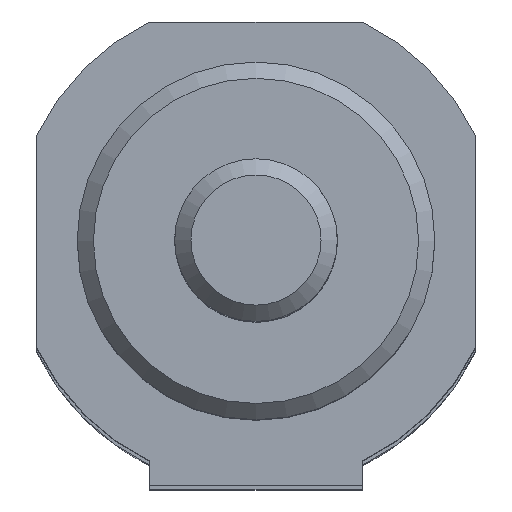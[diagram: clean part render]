
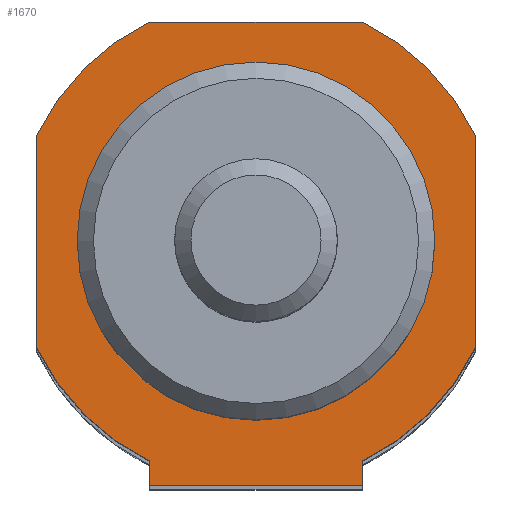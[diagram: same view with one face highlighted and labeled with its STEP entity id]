
A CAD part, top view. The second image highlights one B-rep face of the part: STEP entity #1670.
In plain terms, the highlighted planar face has unit normal (0, 0, 1).
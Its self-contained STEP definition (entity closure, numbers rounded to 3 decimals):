
#101=CARTESIAN_POINT('',(6.538,-15.,186.0));
#102=VERTEX_POINT('',#101);
#103=CARTESIAN_POINT('',(-6.538,-15.,186.0));
#104=VERTEX_POINT('',#103);
#105=CARTESIAN_POINT('',(6.538,-15.,186.0));
#106=DIRECTION('',(-1.0,0.0,0.0));
#107=VECTOR('',#106,13.077);
#108=LINE('',#105,#107);
#109=EDGE_CURVE('',#102,#104,#108,.T.);
#257=CARTESIAN_POINT('',(-6.538,-13.5,186.0));
#258=VERTEX_POINT('',#257);
#272=CARTESIAN_POINT('',(-6.538,-13.5,186.0));
#273=DIRECTION('',(0.0,-1.0,0.0));
#274=VECTOR('',#273,1.5);
#275=LINE('',#272,#274);
#276=EDGE_CURVE('',#258,#104,#275,.T.);
#288=CARTESIAN_POINT('',(6.538,-13.5,186.0));
#289=VERTEX_POINT('',#288);
#296=CARTESIAN_POINT('',(6.538,-13.5,186.0));
#297=DIRECTION('',(0.0,-1.0,0.0));
#298=VECTOR('',#297,1.5);
#299=LINE('',#296,#298);
#300=EDGE_CURVE('',#289,#102,#299,.T.);
#1398=CARTESIAN_POINT('',(11.0,0.,186.0));
#1399=VERTEX_POINT('',#1398);
#1400=CARTESIAN_POINT('',(0.0,0.0,186.0));
#1401=DIRECTION('',(0.0,0.0,-1.0));
#1402=DIRECTION('',(-1.0,0.0,0.0));
#1403=AXIS2_PLACEMENT_3D('',#1400,#1401,#1402);
#1404=CIRCLE('',#1403,11.0);
#1405=EDGE_CURVE('',#1399,#1399,#1404,.T.);
#1490=CARTESIAN_POINT('',(-6.538,13.5,186.0));
#1491=VERTEX_POINT('',#1490);
#1492=CARTESIAN_POINT('',(6.538,13.5,186.0));
#1493=VERTEX_POINT('',#1492);
#1494=CARTESIAN_POINT('',(-6.538,13.5,186.0));
#1495=DIRECTION('',(1.0,0.0,0.0));
#1496=VECTOR('',#1495,13.077);
#1497=LINE('',#1494,#1496);
#1498=EDGE_CURVE('',#1491,#1493,#1497,.T.);
#1521=CARTESIAN_POINT('',(13.5,6.538,186.0));
#1522=VERTEX_POINT('',#1521);
#1523=CARTESIAN_POINT('',(0.,0.,186.0));
#1524=DIRECTION('',(0.,0.,-1.0));
#1525=DIRECTION('',(0.9,0.436,0.));
#1526=AXIS2_PLACEMENT_3D('',#1523,#1524,#1525);
#1527=CIRCLE('',#1526,15.);
#1528=EDGE_CURVE('',#1493,#1522,#1527,.T.);
#1546=CARTESIAN_POINT('',(13.5,-6.538,186.0));
#1547=VERTEX_POINT('',#1546);
#1548=CARTESIAN_POINT('',(13.5,6.538,186.0));
#1549=DIRECTION('',(0.0,-1.0,0.0));
#1550=VECTOR('',#1549,13.077);
#1551=LINE('',#1548,#1550);
#1552=EDGE_CURVE('',#1522,#1547,#1551,.T.);
#1570=CARTESIAN_POINT('',(0.,0.,186.0));
#1571=DIRECTION('',(0.,0.,-1.0));
#1572=DIRECTION('',(0.436,-0.9,0.));
#1573=AXIS2_PLACEMENT_3D('',#1570,#1571,#1572);
#1574=CIRCLE('',#1573,15.);
#1575=EDGE_CURVE('',#1547,#289,#1574,.T.);
#1588=CARTESIAN_POINT('',(-13.5,-6.538,186.0));
#1589=VERTEX_POINT('',#1588);
#1590=CARTESIAN_POINT('',(0.,0.,186.0));
#1591=DIRECTION('',(0.,0.,-1.0));
#1592=DIRECTION('',(-0.9,-0.436,0.));
#1593=AXIS2_PLACEMENT_3D('',#1590,#1591,#1592);
#1594=CIRCLE('',#1593,15.);
#1595=EDGE_CURVE('',#258,#1589,#1594,.T.);
#1613=CARTESIAN_POINT('',(-13.5,6.538,186.0));
#1614=VERTEX_POINT('',#1613);
#1615=CARTESIAN_POINT('',(-13.5,-6.538,186.0));
#1616=DIRECTION('',(0.0,1.0,0.0));
#1617=VECTOR('',#1616,13.077);
#1618=LINE('',#1615,#1617);
#1619=EDGE_CURVE('',#1589,#1614,#1618,.T.);
#1637=CARTESIAN_POINT('',(0.,0.,186.0));
#1638=DIRECTION('',(0.,0.,-1.0));
#1639=DIRECTION('',(-0.436,0.9,0.));
#1640=AXIS2_PLACEMENT_3D('',#1637,#1638,#1639);
#1641=CIRCLE('',#1640,15.);
#1642=EDGE_CURVE('',#1614,#1491,#1641,.T.);
#1650=CARTESIAN_POINT('',(0.,0.0,186.0));
#1651=DIRECTION('',(0.0,0.0,1.0));
#1652=DIRECTION('',(1.0,0.0,0.0));
#1653=AXIS2_PLACEMENT_3D('',#1650,#1651,#1652);
#1654=PLANE('',#1653);
#1655=ORIENTED_EDGE('',*,*,#1498,.F.);
#1656=ORIENTED_EDGE('',*,*,#1642,.F.);
#1657=ORIENTED_EDGE('',*,*,#1619,.F.);
#1658=ORIENTED_EDGE('',*,*,#1595,.F.);
#1659=ORIENTED_EDGE('',*,*,#276,.T.);
#1660=ORIENTED_EDGE('',*,*,#109,.F.);
#1661=ORIENTED_EDGE('',*,*,#300,.F.);
#1662=ORIENTED_EDGE('',*,*,#1575,.F.);
#1663=ORIENTED_EDGE('',*,*,#1552,.F.);
#1664=ORIENTED_EDGE('',*,*,#1528,.F.);
#1665=EDGE_LOOP('',(#1655,#1656,#1657,#1658,#1659,#1660,#1661,#1662,#1663,#1664));
#1666=FACE_OUTER_BOUND('',#1665,.T.);
#1667=ORIENTED_EDGE('',*,*,#1405,.T.);
#1668=EDGE_LOOP('',(#1667));
#1669=FACE_BOUND('',#1668,.T.);
#1670=ADVANCED_FACE('',(#1666,#1669),#1654,.T.);
